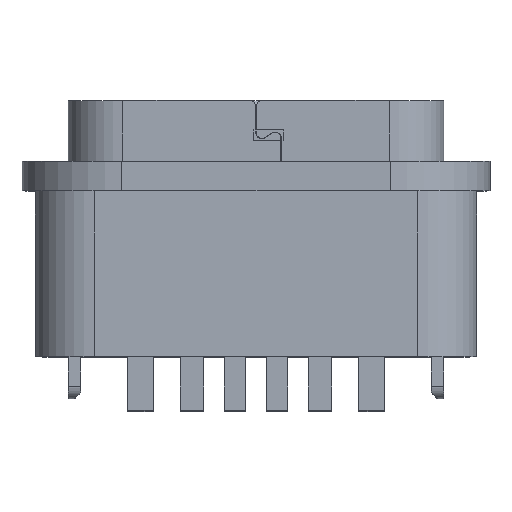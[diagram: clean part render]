
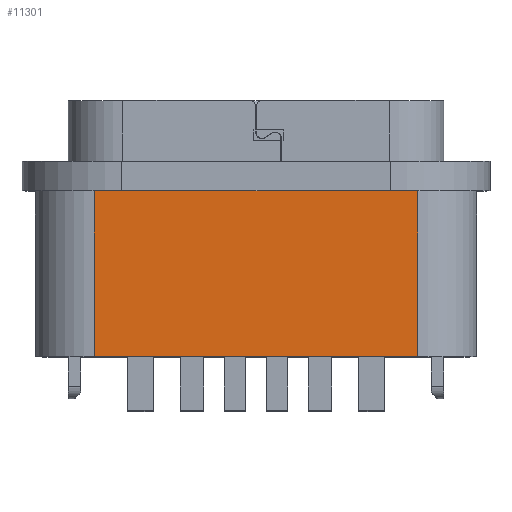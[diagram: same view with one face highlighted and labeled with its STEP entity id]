
A CAD part, top view. The second image highlights one B-rep face of the part: STEP entity #11301.
In plain terms, the highlighted planar face has unit normal (0, 0, 1).
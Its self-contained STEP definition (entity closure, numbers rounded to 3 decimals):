
#647=DIRECTION('',(-1.,0.,0.));
#648=VECTOR('',#647,7.7);
#649=CARTESIAN_POINT('',(3.85,2.3,2.38));
#650=LINE('',#649,#648);
#672=DIRECTION('',(0.,-1.,0.));
#673=VECTOR('',#672,3.95);
#674=CARTESIAN_POINT('',(-3.85,2.3,2.38));
#675=LINE('',#674,#673);
#1596=DIRECTION('',(0.,1.,0.));
#1597=VECTOR('',#1596,3.95);
#1598=CARTESIAN_POINT('',(3.85,-1.65,2.38));
#1599=LINE('',#1598,#1597);
#1604=DIRECTION('',(-1.,0.,0.));
#1605=VECTOR('',#1604,7.7);
#1606=CARTESIAN_POINT('',(3.85,-1.65,2.38));
#1607=LINE('',#1606,#1605);
#8262=CARTESIAN_POINT('',(3.85,2.3,2.38));
#8263=VERTEX_POINT('',#8262);
#8264=CARTESIAN_POINT('',(-3.85,2.3,2.38));
#8265=VERTEX_POINT('',#8264);
#8274=CARTESIAN_POINT('',(-3.85,-1.65,2.38));
#8275=VERTEX_POINT('',#8274);
#8276=CARTESIAN_POINT('',(3.85,-1.65,2.38));
#8277=VERTEX_POINT('',#8276);
#11290=CARTESIAN_POINT('',(0.,0.325,2.38));
#11291=DIRECTION('',(0.,0.,1.));
#11292=DIRECTION('',(1.,0.,0.));
#11293=AXIS2_PLACEMENT_3D('',#11290,#11291,#11292);
#11294=PLANE('',#11293);
#11295=ORIENTED_EDGE('',*,*,#9991,.T.);
#11296=ORIENTED_EDGE('',*,*,#9970,.F.);
#11297=ORIENTED_EDGE('',*,*,#9923,.F.);
#11298=ORIENTED_EDGE('',*,*,#11282,.F.);
#11299=EDGE_LOOP('',(#11295,#11296,#11297,#11298));
#11300=FACE_OUTER_BOUND('',#11299,.F.);
#11301=ADVANCED_FACE('',(#11300),#11294,.T.);
#9923=EDGE_CURVE('',#8263,#8265,#650,.T.);
#9970=EDGE_CURVE('',#8265,#8275,#675,.T.);
#9991=EDGE_CURVE('',#8277,#8275,#1607,.T.);
#11282=EDGE_CURVE('',#8277,#8263,#1599,.T.);
